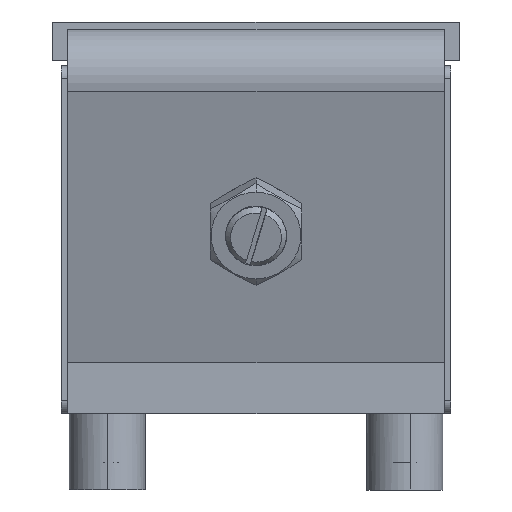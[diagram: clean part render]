
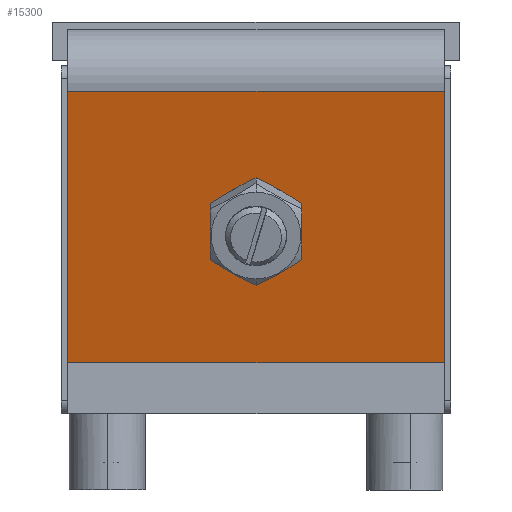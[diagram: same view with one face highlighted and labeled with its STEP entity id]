
A CAD part, left-side view. The second image highlights one B-rep face of the part: STEP entity #15300.
In plain terms, the highlighted planar face has unit normal (-0.966, 0, -0.259).
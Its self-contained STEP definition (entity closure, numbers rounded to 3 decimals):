
#595 = ORIENTED_EDGE ( 'NONE', *, *, #14050, .F. ) ;
#762 = LINE ( 'NONE', #17114, #14753 ) ;
#1017 = AXIS2_PLACEMENT_3D ( 'NONE', #12984, #11630, #17189 ) ;
#1187 = CARTESIAN_POINT ( 'NONE',  ( -159.251, 74.246, -42.671 ) ) ;
#2215 = VECTOR ( 'NONE', #4519, 1000. ) ;
#3337 = CARTESIAN_POINT ( 'NONE',  ( -201.935, 273.031, 116.626 ) ) ;
#3515 = VERTEX_POINT ( 'NONE', #10195 ) ;
#4157 = CARTESIAN_POINT ( 'NONE',  ( -192.1, 0.246, 79.924 ) ) ;
#4362 = VERTEX_POINT ( 'NONE', #13657 ) ;
#4519 = DIRECTION ( 'NONE',  ( 0., -1., 0. ) ) ;
#4524 = DIRECTION ( 'NONE',  ( 0.259, 0., -0.966 ) ) ;
#5003 = ORIENTED_EDGE ( 'NONE', *, *, #15450, .F. ) ;
#5045 = ORIENTED_EDGE ( 'NONE', *, *, #17324, .F. ) ;
#5067 = DIRECTION ( 'NONE',  ( -0.966, 0., -0.259 ) ) ;
#5989 = CIRCLE ( 'NONE', #10660, 17.625 ) ;
#6850 = CIRCLE ( 'NONE', #1017, 17.625 ) ;
#6897 = EDGE_LOOP ( 'NONE', ( #595, #5045, #16545, #17285 ) ) ;
#8122 = DIRECTION ( 'NONE',  ( 0.259, 0., -0.966 ) ) ;
#9042 = EDGE_CURVE ( 'NONE', #3515, #14947, #6850, .T. ) ;
#9089 = LINE ( 'NONE', #1187, #9195 ) ;
#9135 = CARTESIAN_POINT ( 'NONE',  ( -201.935, 74.246, 116.626 ) ) ;
#9195 = VECTOR ( 'NONE', #8122, 1000. ) ;
#9959 = CARTESIAN_POINT ( 'NONE',  ( -173.304, -73.754, 9.774 ) ) ;
#10195 = CARTESIAN_POINT ( 'NONE',  ( -182.977, 0.246, 45.876 ) ) ;
#10386 = CARTESIAN_POINT ( 'NONE',  ( -187.539, 0.246, 62.9 ) ) ;
#10660 = AXIS2_PLACEMENT_3D ( 'NONE', #10386, #5067, #14829 ) ;
#11379 = FACE_OUTER_BOUND ( 'NONE', #6897, .T. ) ;
#11630 = DIRECTION ( 'NONE',  ( -0.966, 0., -0.259 ) ) ;
#11659 = DIRECTION ( 'NONE',  ( -0.966, 0., -0.259 ) ) ;
#11883 = CARTESIAN_POINT ( 'NONE',  ( -173.304, 273.031, 9.774 ) ) ;
#12230 = LINE ( 'NONE', #11883, #14708 ) ;
#12826 = CARTESIAN_POINT ( 'NONE',  ( -159.251, 273.031, -42.671 ) ) ;
#12984 = CARTESIAN_POINT ( 'NONE',  ( -187.539, 0.246, 62.9 ) ) ;
#13204 = VERTEX_POINT ( 'NONE', #9135 ) ;
#13273 = AXIS2_PLACEMENT_3D ( 'NONE', #12826, #11659, #15672 ) ;
#13657 = CARTESIAN_POINT ( 'NONE',  ( -173.304, 74.246, 9.774 ) ) ;
#13969 = VERTEX_POINT ( 'NONE', #15931 ) ;
#14050 = EDGE_CURVE ( 'NONE', #13969, #15718, #762, .T. ) ;
#14383 = PLANE ( 'NONE',  #13273 ) ;
#14549 = ORIENTED_EDGE ( 'NONE', *, *, #9042, .F. ) ;
#14708 = VECTOR ( 'NONE', #14878, 1000. ) ;
#14753 = VECTOR ( 'NONE', #4524, 1000. ) ;
#14829 = DIRECTION ( 'NONE',  ( -0.259, 0., 0.966 ) ) ;
#14878 = DIRECTION ( 'NONE',  ( 0., -1., 0. ) ) ;
#14947 = VERTEX_POINT ( 'NONE', #4157 ) ;
#15300 = ADVANCED_FACE ( 'NONE', ( #11379, #15763 ), #14383, .T. ) ;
#15450 = EDGE_CURVE ( 'NONE', #14947, #3515, #5989, .T. ) ;
#15524 = EDGE_CURVE ( 'NONE', #13204, #4362, #9089, .T. ) ;
#15672 = DIRECTION ( 'NONE',  ( -0.259, 0., 0.966 ) ) ;
#15718 = VERTEX_POINT ( 'NONE', #9959 ) ;
#15763 = FACE_BOUND ( 'NONE', #17669, .T. ) ;
#15827 = LINE ( 'NONE', #3337, #2215 ) ;
#15931 = CARTESIAN_POINT ( 'NONE',  ( -201.935, -73.754, 116.626 ) ) ;
#15994 = EDGE_CURVE ( 'NONE', #4362, #15718, #12230, .T. ) ;
#16545 = ORIENTED_EDGE ( 'NONE', *, *, #15524, .T. ) ;
#17114 = CARTESIAN_POINT ( 'NONE',  ( -159.251, -73.754, -42.671 ) ) ;
#17189 = DIRECTION ( 'NONE',  ( -0.259, 0., 0.966 ) ) ;
#17285 = ORIENTED_EDGE ( 'NONE', *, *, #15994, .T. ) ;
#17324 = EDGE_CURVE ( 'NONE', #13204, #13969, #15827, .T. ) ;
#17669 = EDGE_LOOP ( 'NONE', ( #5003, #14549 ) ) ;
